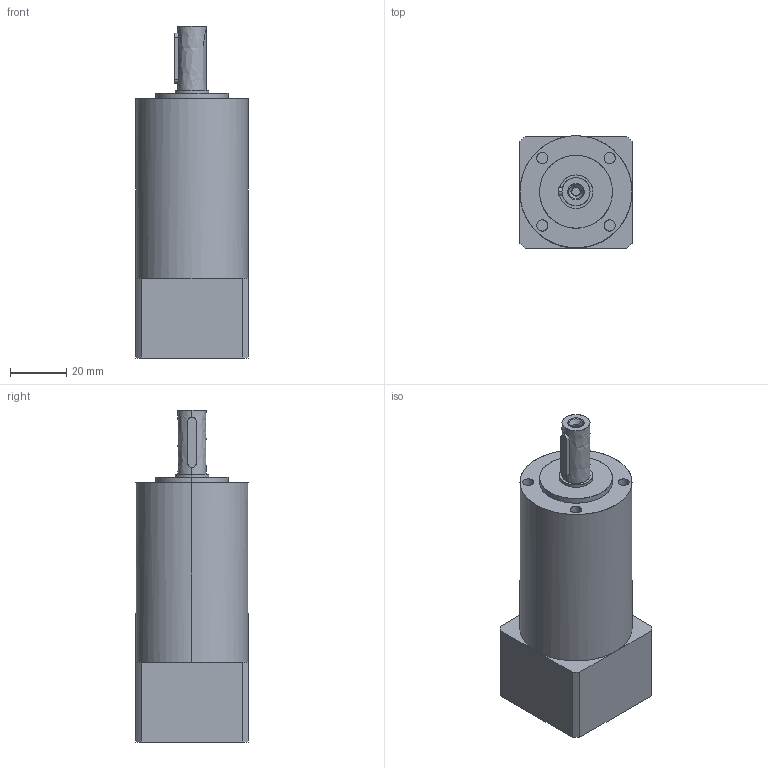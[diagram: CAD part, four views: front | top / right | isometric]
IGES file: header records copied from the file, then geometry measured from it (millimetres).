
Start section: Parasolid data in IGES format
Global section: file name: PLE40_3.igs; native system: Parasolid(11.0); preprocessor: Pariges 3.0; author: noname; organization: noname; date: 19991109.082701; units: millimetre
Bounding box: 40 x 40 x 118.5 mm (x, y, z)
Surface area: 18363.5 mm2 (no closed solid volume)
Topology: 0 solids, 0 shells, 72 faces, 923 edges, 923 vertices
Faces by surface type: bspline 72
